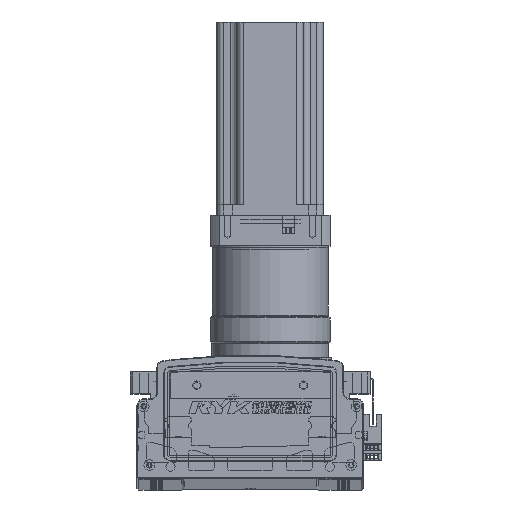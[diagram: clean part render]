
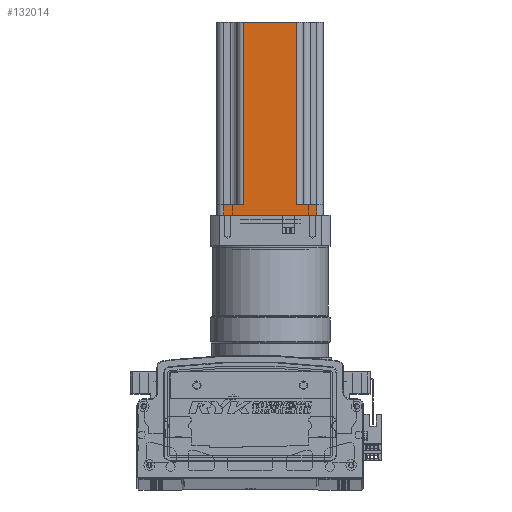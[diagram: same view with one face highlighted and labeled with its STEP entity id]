
A CAD part, top view. The second image highlights one B-rep face of the part: STEP entity #132014.
In plain terms, the highlighted planar face has unit normal (0, 0, 1) as drawn and (0, -1, 0) by its records, which use the part's own axes.
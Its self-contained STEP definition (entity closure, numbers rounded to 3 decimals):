
#10699 = EDGE_CURVE ( 'NONE', #131508, #131472, #103848, .T. ) ;
#10769 = EDGE_CURVE ( 'NONE', #131583, #131508, #104061, .T. ) ;
#10787 = EDGE_CURVE ( 'NONE', #131477, #131475, #104143, .T. ) ;
#10836 = EDGE_CURVE ( 'NONE', #131546, #131475, #104232, .T. ) ;
#10905 = EDGE_CURVE ( 'NONE', #131477, #131547, #104315, .T. ) ;
#10945 = EDGE_CURVE ( 'NONE', #131583, #131476, #104573, .T. ) ;
#10960 = EDGE_CURVE ( 'NONE', #131546, #131476, #104442, .T. ) ;
#10967 = EDGE_CURVE ( 'NONE', #131472, #131547, #104475, .T. ) ;
#25212 = CARTESIAN_POINT ( 'NONE',  ( -82.587, -40.37, 0. ) ) ;
#25230 = CARTESIAN_POINT ( 'NONE',  ( -12.587, -40.37, 0. ) ) ;
#25242 = CARTESIAN_POINT ( 'NONE',  ( -27.587, -40.37, 145. ) ) ;
#25245 = CARTESIAN_POINT ( 'NONE',  ( -27.587, -40.37, 8. ) ) ;
#25246 = CARTESIAN_POINT ( 'NONE',  ( -67.587, -40.37, 8. ) ) ;
#25269 = CARTESIAN_POINT ( 'NONE',  ( -67.587, -40.37, 145. ) ) ;
#25319 = CARTESIAN_POINT ( 'NONE',  ( -12.587, -40.37, 8. ) ) ;
#25323 = CARTESIAN_POINT ( 'NONE',  ( -82.587, -40.37, 8. ) ) ;
#26383 = DIRECTION ( 'NONE',  ( 0., 1., 0. ) ) ;
#26412 = PLANE ( 'NONE',  #44936 ) ;
#26433 = CARTESIAN_POINT ( 'NONE',  ( -87.587, -40.37, 145. ) ) ;
#26475 = DIRECTION ( 'NONE',  ( -1., 0., 0. ) ) ;
#27370 = EDGE_LOOP ( 'NONE', ( #128706, #128690, #128649, #128697, #128675, #128695, #128680, #128681 ) ) ;
#44936 = AXIS2_PLACEMENT_3D ( 'NONE', #26433, #26383, #26475 ) ;
#49357 = FACE_OUTER_BOUND ( 'NONE', #27370, .T. ) ;
#91961 = CARTESIAN_POINT ( 'NONE',  ( -67.587, -40.37, 145. ) ) ;
#91967 = DIRECTION ( 'NONE',  ( 0., 0., -1. ) ) ;
#91968 = CARTESIAN_POINT ( 'NONE',  ( -12.587, -40.37, 145. ) ) ;
#91971 = DIRECTION ( 'NONE',  ( 0., 0., 1. ) ) ;
#103848 = LINE ( 'NONE', #108791, #103854 ) ;
#103854 = VECTOR ( 'NONE', #108851, 1000. ) ;
#104061 = LINE ( 'NONE', #109123, #104101 ) ;
#104101 = VECTOR ( 'NONE', #109168, 1000. ) ;
#104137 = VECTOR ( 'NONE', #109735, 1000. ) ;
#104143 = LINE ( 'NONE', #109363, #104170 ) ;
#104170 = VECTOR ( 'NONE', #109365, 1000. ) ;
#104232 = LINE ( 'NONE', #109646, #104137 ) ;
#104315 = LINE ( 'NONE', #109915, #104335 ) ;
#104335 = VECTOR ( 'NONE', #110143, 1000. ) ;
#104442 = LINE ( 'NONE', #91961, #104449 ) ;
#104449 = VECTOR ( 'NONE', #91967, 1000. ) ;
#104475 = LINE ( 'NONE', #91968, #104476 ) ;
#104476 = VECTOR ( 'NONE', #91971, 1000. ) ;
#104502 = VECTOR ( 'NONE', #110222, 1000. ) ;
#104573 = LINE ( 'NONE', #110366, #104502 ) ;
#108791 = CARTESIAN_POINT ( 'NONE',  ( -87.587, -40.37, 0. ) ) ;
#108851 = DIRECTION ( 'NONE',  ( 1., 0., 0. ) ) ;
#109123 = CARTESIAN_POINT ( 'NONE',  ( -82.587, -40.37, 145. ) ) ;
#109168 = DIRECTION ( 'NONE',  ( 0., 0., -1. ) ) ;
#109363 = CARTESIAN_POINT ( 'NONE',  ( -27.587, -40.37, 145. ) ) ;
#109365 = DIRECTION ( 'NONE',  ( 0., 0., 1. ) ) ;
#109646 = CARTESIAN_POINT ( 'NONE',  ( -87.587, -40.37, 145. ) ) ;
#109735 = DIRECTION ( 'NONE',  ( 1., 0., 0. ) ) ;
#109915 = CARTESIAN_POINT ( 'NONE',  ( -7.587, -40.37, 8. ) ) ;
#110143 = DIRECTION ( 'NONE',  ( 1., 0., 0. ) ) ;
#110222 = DIRECTION ( 'NONE',  ( 1., 0., 0. ) ) ;
#110366 = CARTESIAN_POINT ( 'NONE',  ( -87.587, -40.37, 8. ) ) ;
#128649 = ORIENTED_EDGE ( 'NONE', *, *, #10699, .T. ) ;
#128675 = ORIENTED_EDGE ( 'NONE', *, *, #10905, .F. ) ;
#128680 = ORIENTED_EDGE ( 'NONE', *, *, #10836, .F. ) ;
#128681 = ORIENTED_EDGE ( 'NONE', *, *, #10960, .T. ) ;
#128690 = ORIENTED_EDGE ( 'NONE', *, *, #10769, .T. ) ;
#128695 = ORIENTED_EDGE ( 'NONE', *, *, #10787, .T. ) ;
#128697 = ORIENTED_EDGE ( 'NONE', *, *, #10967, .T. ) ;
#128706 = ORIENTED_EDGE ( 'NONE', *, *, #10945, .F. ) ;
#131472 = VERTEX_POINT ( 'NONE', #25230 ) ;
#131475 = VERTEX_POINT ( 'NONE', #25242 ) ;
#131476 = VERTEX_POINT ( 'NONE', #25246 ) ;
#131477 = VERTEX_POINT ( 'NONE', #25245 ) ;
#131508 = VERTEX_POINT ( 'NONE', #25212 ) ;
#131546 = VERTEX_POINT ( 'NONE', #25269 ) ;
#131547 = VERTEX_POINT ( 'NONE', #25319 ) ;
#131583 = VERTEX_POINT ( 'NONE', #25323 ) ;
#132014 = ADVANCED_FACE ( 'NONE', ( #49357 ), #26412, .F. ) ;
